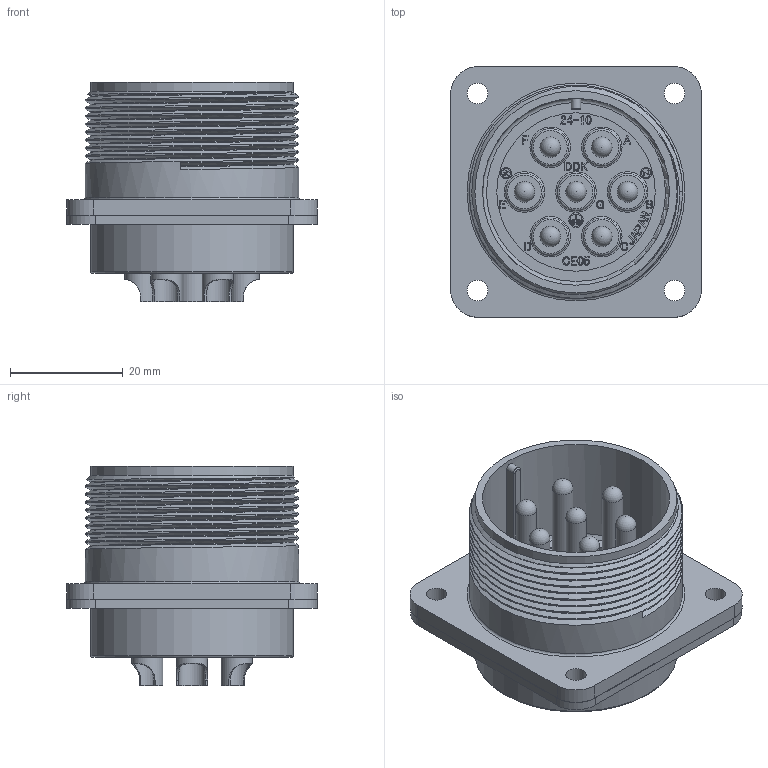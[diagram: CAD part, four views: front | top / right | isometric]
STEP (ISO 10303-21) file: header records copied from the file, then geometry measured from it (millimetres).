
FILE_DESCRIPTION (( 'STEP AP203' ), '1' );
FILE_NAME ('CE05-2A24-10PGS-D.STEP', '2021-05-20T01:25:04', ( '' ), ( '' ), 'SwSTEP 2.0', 'SolidWorks 2018', '' );
FILE_SCHEMA (( 'CONFIG_CONTROL_DESIGN' ));
Length unit declared in the file: millimetre
Products named in the file (1): CE05-2A24-10PGS-D
Bounding box: 44.45 x 44.45 x 38.86 mm (x, y, z)
Volume: 21273.7 mm3; surface area: 16281.5 mm2
Topology: 1 solids, 3 shells, 1040 faces, 2764 edges, 1849 vertices
Faces by surface type: plane 557, bspline 341, cylinder 109, torus 22, sphere 9, cone 2
Full cylindrical faces by diameter (mm): 1.6 x2, 1.716 x1, 2 x2, 2.6 x1, 3.61 x4, 3.63 x7, 3.7 x4, 4.7 x7, 5.5 x7, 6.6 x7, 8.65 x7, 28.1 x1, 28.3 x1, 32.8 x1, 33.15 x1, 34 x1, 35.87 x1, 35.9 x1, 37.85 x8
Entity records: 45056 total; most frequent: CARTESIAN_POINT 22189, ORIENTED_EDGE 5232, DIRECTION 3462, EDGE_CURVE 2616, VERTEX_POINT 1795, LINE 1646, VECTOR 1646, EDGE_LOOP 1243
